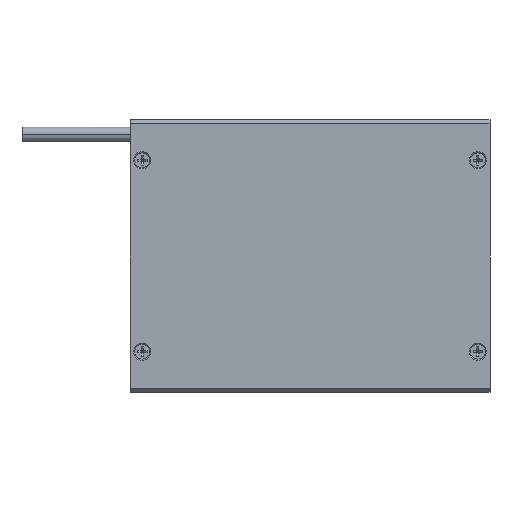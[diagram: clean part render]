
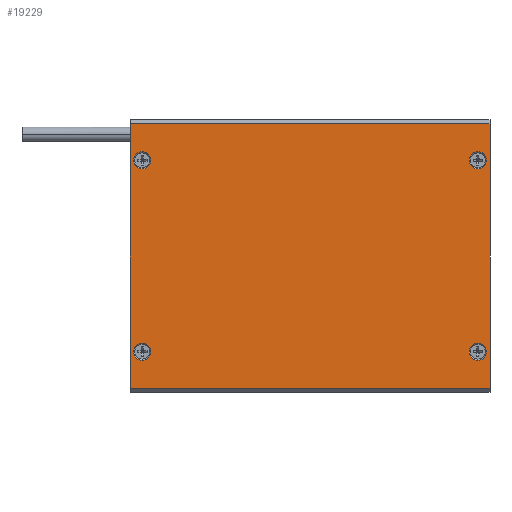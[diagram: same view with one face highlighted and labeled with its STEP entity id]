
A CAD part, front view. The second image highlights one B-rep face of the part: STEP entity #19229.
In plain terms, the highlighted planar face has unit normal (0, -1, 0).
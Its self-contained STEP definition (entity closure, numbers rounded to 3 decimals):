
#1351=DIRECTION('',(0.,0.,-1.));
#1352=VECTOR('',#1351,65.3);
#1353=CARTESIAN_POINT('',(-100.574,0.,-1.2));
#1354=LINE('',#1353,#1352);
#4841=DIRECTION('',(0.,0.,1.));
#4842=VECTOR('',#4841,65.3);
#4843=CARTESIAN_POINT('',(-11.574,0.,-66.5));
#4844=LINE('',#4843,#4842);
#4965=CARTESIAN_POINT('',(-97.574,0.,-57.5));
#4966=DIRECTION('',(0.,-1.,0.));
#4967=DIRECTION('',(0.,0.,1.));
#4968=AXIS2_PLACEMENT_3D('',#4965,#4966,#4967);
#4970=CARTESIAN_POINT('',(-97.574,0.,-57.5));
#4971=DIRECTION('',(0.,-1.,0.));
#4972=DIRECTION('',(0.,0.,-1.));
#4973=AXIS2_PLACEMENT_3D('',#4970,#4971,#4972);
#4975=CARTESIAN_POINT('',(-97.574,0.,
-10.2));
#4976=DIRECTION('',(0.,-1.,0.));
#4977=DIRECTION('',(0.,0.,-1.));
#4978=AXIS2_PLACEMENT_3D('',#4975,#4976,#4977);
#4980=CARTESIAN_POINT('',(-97.574,0.,
-10.2));
#4981=DIRECTION('',(0.,-1.,0.));
#4982=DIRECTION('',(0.,0.,1.));
#4983=AXIS2_PLACEMENT_3D('',#4980,#4981,#4982);
#4985=CARTESIAN_POINT('',(-14.574,0.,-57.5));
#4986=DIRECTION('',(0.,-1.,0.));
#4987=DIRECTION('',(0.,0.,1.));
#4988=AXIS2_PLACEMENT_3D('',#4985,#4986,#4987);
#4990=CARTESIAN_POINT('',(-14.574,0.,-57.5));
#4991=DIRECTION('',(0.,-1.,0.));
#4992=DIRECTION('',(0.,0.,-1.));
#4993=AXIS2_PLACEMENT_3D('',#4990,#4991,#4992);
#4995=CARTESIAN_POINT('',(-14.574,0.,
-10.2));
#4996=DIRECTION('',(0.,-1.,0.));
#4997=DIRECTION('',(0.,0.,-1.));
#4998=AXIS2_PLACEMENT_3D('',#4995,#4996,#4997);
#5000=CARTESIAN_POINT('',(-14.574,0.,
-10.2));
#5001=DIRECTION('',(0.,-1.,0.));
#5002=DIRECTION('',(0.,0.,1.));
#5003=AXIS2_PLACEMENT_3D('',#5000,#5001,#5002);
#5005=DIRECTION('',(-1.,0.,0.));
#5006=VECTOR('',#5005,89.);
#5007=CARTESIAN_POINT('',(-11.574,0.,-66.5));
#5008=LINE('',#5007,#5006);
#5009=DIRECTION('',(-1.,0.,0.));
#5010=VECTOR('',#5009,89.);
#5011=CARTESIAN_POINT('',(-11.574,0.,-1.2));
#5012=LINE('',#5011,#5010);
#10257=CARTESIAN_POINT('',(-11.574,0.,-1.2));
#10259=VERTEX_POINT('',#10257);
#10416=CARTESIAN_POINT('',(-100.574,0.,-1.2));
#10418=VERTEX_POINT('',#10416);
#10636=CARTESIAN_POINT('',(-14.574,0.,
-55.372));
#10637=CARTESIAN_POINT('',(-14.574,0.,
-59.628));
#10638=VERTEX_POINT('',#10636);
#10639=VERTEX_POINT('',#10637);
#10640=CARTESIAN_POINT('',(-14.574,0.,
-12.328));
#10641=CARTESIAN_POINT('',(-14.574,0.,
-8.073));
#10642=VERTEX_POINT('',#10640);
#10643=VERTEX_POINT('',#10641);
#10644=CARTESIAN_POINT('',(-11.574,0.,-66.5));
#10645=CARTESIAN_POINT('',(-100.574,0.,-66.5));
#10646=VERTEX_POINT('',#10644);
#10647=VERTEX_POINT('',#10645);
#10652=CARTESIAN_POINT('',(-97.574,0.,
-55.372));
#10653=CARTESIAN_POINT('',(-97.574,0.,
-59.628));
#10654=VERTEX_POINT('',#10652);
#10655=VERTEX_POINT('',#10653);
#10656=CARTESIAN_POINT('',(-97.574,0.,
-12.328));
#10657=CARTESIAN_POINT('',(-97.574,0.,
-8.073));
#10658=VERTEX_POINT('',#10656);
#10659=VERTEX_POINT('',#10657);
#19193=CARTESIAN_POINT('',(-11.574,0.,-2.2));
#19194=DIRECTION('',(0.,-1.,0.));
#19195=DIRECTION('',(1.,0.,0.));
#19196=AXIS2_PLACEMENT_3D('',#19193,#19194,#19195);
#19197=PLANE('',#19196);
#19198=ORIENTED_EDGE('',*,*,#18935,.F.);
#19199=ORIENTED_EDGE('',*,*,#19185,.T.);
#19200=ORIENTED_EDGE('',*,*,#14222,.F.);
#19202=ORIENTED_EDGE('',*,*,#19201,.F.);
#19203=EDGE_LOOP('',(#19198,#19199,#19200,#19202));
#19204=FACE_OUTER_BOUND('',#19203,.F.);
#19206=ORIENTED_EDGE('',*,*,#19205,.T.);
#19208=ORIENTED_EDGE('',*,*,#19207,.T.);
#19209=EDGE_LOOP('',(#19206,#19208));
#19210=FACE_BOUND('',#19209,.F.);
#19212=ORIENTED_EDGE('',*,*,#19211,.T.);
#19214=ORIENTED_EDGE('',*,*,#19213,.T.);
#19215=EDGE_LOOP('',(#19212,#19214));
#19216=FACE_BOUND('',#19215,.F.);
#19218=ORIENTED_EDGE('',*,*,#19217,.T.);
#19220=ORIENTED_EDGE('',*,*,#19219,.T.);
#19221=EDGE_LOOP('',(#19218,#19220));
#19222=FACE_BOUND('',#19221,.F.);
#19224=ORIENTED_EDGE('',*,*,#19223,.T.);
#19226=ORIENTED_EDGE('',*,*,#19225,.T.);
#19227=EDGE_LOOP('',(#19224,#19226));
#19228=FACE_BOUND('',#19227,.F.);
#19229=ADVANCED_FACE('',(#19204,#19210,#19216,#19222,#19228),#19197,.T.);
#4969=CIRCLE('',#4968,2.128);
#4974=CIRCLE('',#4973,2.128);
#4979=CIRCLE('',#4978,2.128);
#4984=CIRCLE('',#4983,2.128);
#4989=CIRCLE('',#4988,2.128);
#4994=CIRCLE('',#4993,2.128);
#4999=CIRCLE('',#4998,2.128);
#5004=CIRCLE('',#5003,2.128);
#14222=EDGE_CURVE('',#10418,#10647,#1354,.T.);
#18935=EDGE_CURVE('',#10646,#10259,#4844,.T.);
#19185=EDGE_CURVE('',#10646,#10647,#5008,.T.);
#19201=EDGE_CURVE('',#10259,#10418,#5012,.T.);
#19205=EDGE_CURVE('',#10658,#10659,#4979,.T.);
#19207=EDGE_CURVE('',#10659,#10658,#4984,.T.);
#19211=EDGE_CURVE('',#10638,#10639,#4989,.T.);
#19213=EDGE_CURVE('',#10639,#10638,#4994,.T.);
#19217=EDGE_CURVE('',#10642,#10643,#4999,.T.);
#19219=EDGE_CURVE('',#10643,#10642,#5004,.T.);
#19223=EDGE_CURVE('',#10654,#10655,#4969,.T.);
#19225=EDGE_CURVE('',#10655,#10654,#4974,.T.);
